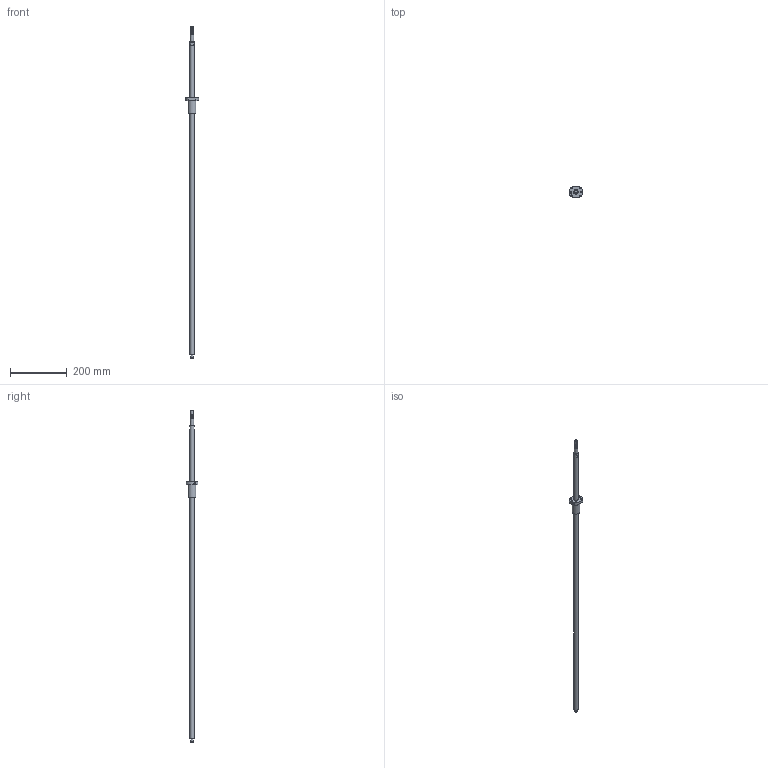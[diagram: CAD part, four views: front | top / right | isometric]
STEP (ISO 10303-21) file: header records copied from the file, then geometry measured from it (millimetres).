
FILE_DESCRIPTION(/* description */ (''),/* implementation_level */ '2;1');
FILE_NAME(/* name */ 'BSG146_asm1.stp',/* time_stamp */ '2017-01-07T08:55:51+08:00',/* author */ (''),/* organization */ (''),/* preprocessor_version */ 'ST-DEVELOPER v15',/* originating_system */ 'SIEMENS PLM Software NX 8.5',/* authorisation */ '');
FILE_SCHEMA (('AUTOMOTIVE_DESIGN { 1 0 10303 214 3 1 1 1 }'));
Length unit declared in the file: millimetre
Products named in the file (3): 01; BSG146; BSG146_asm1
Assembly tree (2 placements, depth 2):
  BSG146_asm1
    BSG146
    01
Bounding box: 48 x 40 x 1175 mm (x, y, z)
Volume: 260725.1 mm3; surface area: 70900.3 mm2
Topology: 2 solids, 2 shells, 56 faces, 137 edges, 94 vertices
Faces by surface type: cylinder 28, plane 24, bspline 2, cone 2
Full cylindrical faces by diameter (mm): 5 x1, 5.5 x6, 6 x1, 9.6 x1, 10 x3, 12 x8, 16 x2, 28 x1
Entity records: 2497 total; most frequent: CARTESIAN_POINT 1414, DIRECTION 212, ORIENTED_EDGE 170, AXIS2_PLACEMENT_3D 92, EDGE_LOOP 90, EDGE_CURVE 85, FACE_BOUND 69, VERTEX_POINT 67
